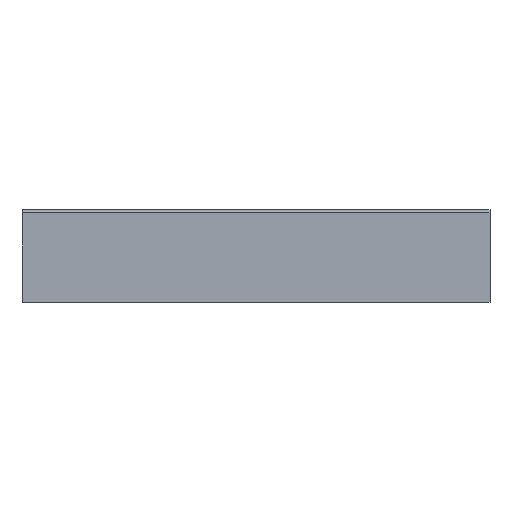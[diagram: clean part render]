
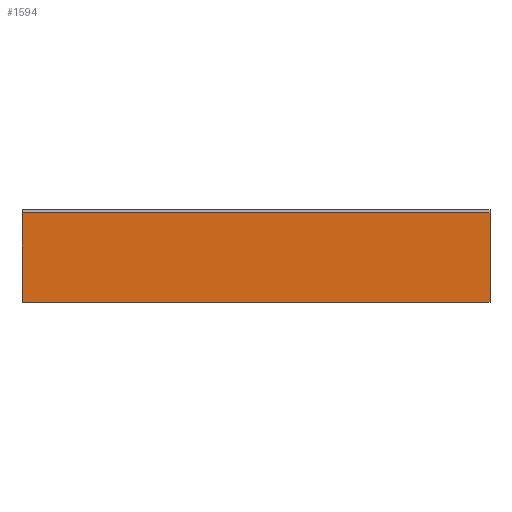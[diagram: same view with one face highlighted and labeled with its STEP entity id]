
A CAD part, left-side view. The second image highlights one B-rep face of the part: STEP entity #1594.
In plain terms, the highlighted planar face has unit normal (-1, 0, 0).
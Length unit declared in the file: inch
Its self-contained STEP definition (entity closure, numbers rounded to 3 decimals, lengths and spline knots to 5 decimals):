
#253 = VECTOR ( 'NONE', #3750, 39.37008 ) ;
#336 = ORIENTED_EDGE ( 'NONE', *, *, #2841, .T. ) ;
#355 = EDGE_LOOP ( 'NONE', ( #3700, #336, #2540, #4866 ) ) ;
#357 = CARTESIAN_POINT ( 'NONE',  ( 0., 0., 0.435 ) ) ;
#442 = CARTESIAN_POINT ( 'NONE',  ( 0., 0., 0.45 ) ) ;
#478 = VERTEX_POINT ( 'NONE', #1666 ) ;
#640 = DIRECTION ( 'NONE',  ( 0., -1., 0. ) ) ;
#697 = VECTOR ( 'NONE', #640, 39.37008 ) ;
#962 = VERTEX_POINT ( 'NONE', #1045 ) ;
#999 = VECTOR ( 'NONE', #4139, 39.37008 ) ;
#1027 = CARTESIAN_POINT ( 'NONE',  ( 0., 0., 0. ) ) ;
#1045 = CARTESIAN_POINT ( 'NONE',  ( 0., 0., 0.435 ) ) ;
#1139 = LINE ( 'NONE', #442, #3729 ) ;
#1205 = DIRECTION ( 'NONE',  ( 0., 1., 0. ) ) ;
#1250 = PLANE ( 'NONE',  #2810 ) ;
#1554 = CARTESIAN_POINT ( 'NONE',  ( 0., 0., 0.45 ) ) ;
#1594 = ADVANCED_FACE ( 'NONE', ( #2712 ), #1250, .F. ) ;
#1666 = CARTESIAN_POINT ( 'NONE',  ( 0., -2.28, 0. ) ) ;
#1705 = CARTESIAN_POINT ( 'NONE',  ( 0., -2.28, 0.435 ) ) ;
#1953 = CARTESIAN_POINT ( 'NONE',  ( 0., -2.28, 0.45 ) ) ;
#2503 = EDGE_CURVE ( 'NONE', #962, #4883, #1139, .T. ) ;
#2540 = ORIENTED_EDGE ( 'NONE', *, *, #2503, .T. ) ;
#2550 = LINE ( 'NONE', #3292, #697 ) ;
#2689 = LINE ( 'NONE', #1953, #999 ) ;
#2712 = FACE_OUTER_BOUND ( 'NONE', #355, .T. ) ;
#2810 = AXIS2_PLACEMENT_3D ( 'NONE', #1554, #3087, #1205 ) ;
#2841 = EDGE_CURVE ( 'NONE', #4676, #962, #4537, .T. ) ;
#3087 = DIRECTION ( 'NONE',  ( 1., 0., 0. ) ) ;
#3292 = CARTESIAN_POINT ( 'NONE',  ( 0., 0., 0. ) ) ;
#3700 = ORIENTED_EDGE ( 'NONE', *, *, #4487, .F. ) ;
#3729 = VECTOR ( 'NONE', #4637, 39.37008 ) ;
#3750 = DIRECTION ( 'NONE',  ( 0., 1., 0. ) ) ;
#4139 = DIRECTION ( 'NONE',  ( 0., 0., -1. ) ) ;
#4232 = EDGE_CURVE ( 'NONE', #4883, #478, #2550, .T. ) ;
#4487 = EDGE_CURVE ( 'NONE', #4676, #478, #2689, .T. ) ;
#4537 = LINE ( 'NONE', #357, #253 ) ;
#4637 = DIRECTION ( 'NONE',  ( 0., 0., -1. ) ) ;
#4676 = VERTEX_POINT ( 'NONE', #1705 ) ;
#4866 = ORIENTED_EDGE ( 'NONE', *, *, #4232, .T. ) ;
#4883 = VERTEX_POINT ( 'NONE', #1027 ) ;
